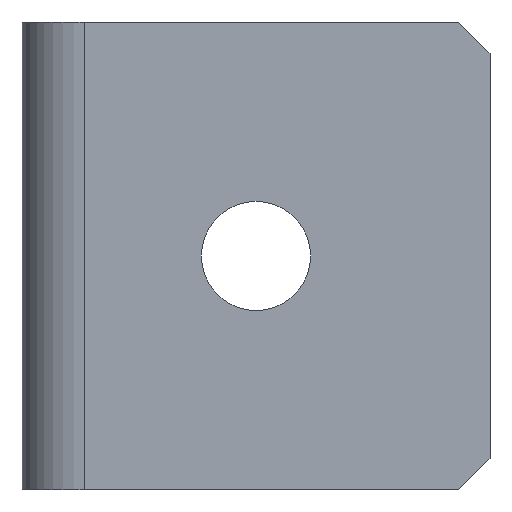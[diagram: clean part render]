
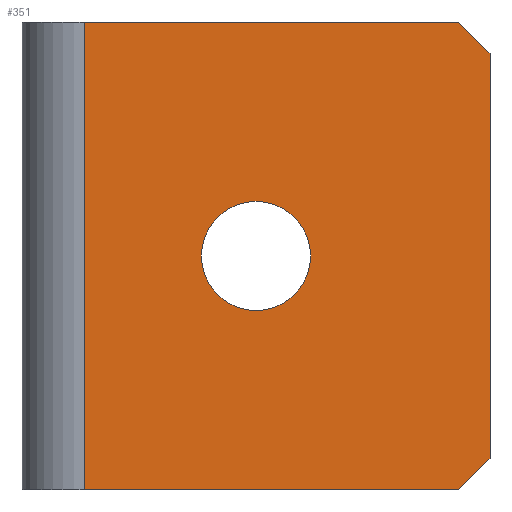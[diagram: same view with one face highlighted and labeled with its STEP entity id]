
A CAD part, front view. The second image highlights one B-rep face of the part: STEP entity #351.
In plain terms, the highlighted planar face has unit normal (0, -1, 0).
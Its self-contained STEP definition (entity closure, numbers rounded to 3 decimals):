
#24 = EDGE_CURVE ( 'NONE', #153, #34, #355, .T. ) ;
#34 = VERTEX_POINT ( 'NONE', #84 ) ;
#37 = DIRECTION ( 'NONE',  ( 0., 0., 1. ) ) ;
#40 = DIRECTION ( 'NONE',  ( 1., 0., 0. ) ) ;
#44 = CIRCLE ( 'NONE', #563, 3.5 ) ;
#81 = CARTESIAN_POINT ( 'NONE',  ( 28., 0., 0. ) ) ;
#84 = CARTESIAN_POINT ( 'NONE',  ( 4., 0., 0. ) ) ;
#89 = CARTESIAN_POINT ( 'NONE',  ( 4., 0., -30. ) ) ;
#91 = VECTOR ( 'NONE', #370, 1000. ) ;
#105 = LINE ( 'NONE', #550, #381 ) ;
#108 = EDGE_CURVE ( 'NONE', #34, #632, #286, .T. ) ;
#135 = EDGE_CURVE ( 'NONE', #467, #635, #610, .T. ) ;
#153 = VERTEX_POINT ( 'NONE', #356 ) ;
#159 = EDGE_CURVE ( 'NONE', #425, #327, #478, .T. ) ;
#170 = CARTESIAN_POINT ( 'NONE',  ( 18.5, 0., -15. ) ) ;
#180 = ORIENTED_EDGE ( 'NONE', *, *, #521, .T. ) ;
#182 = DIRECTION ( 'NONE',  ( 0., 0., -1. ) ) ;
#183 = EDGE_CURVE ( 'NONE', #384, #467, #277, .T. ) ;
#195 = CARTESIAN_POINT ( 'NONE',  ( 30., 0., -28. ) ) ;
#240 = PLANE ( 'NONE',  #534 ) ;
#247 = DIRECTION ( 'NONE',  ( 0., 0., -1. ) ) ;
#259 = LINE ( 'NONE', #318, #91 ) ;
#261 = CARTESIAN_POINT ( 'NONE',  ( 4., 0., 0. ) ) ;
#262 = DIRECTION ( 'NONE',  ( -0.707, 0., 0.707 ) ) ;
#267 = ORIENTED_EDGE ( 'NONE', *, *, #377, .F. ) ;
#277 = LINE ( 'NONE', #409, #548 ) ;
#283 = ORIENTED_EDGE ( 'NONE', *, *, #183, .T. ) ;
#286 = LINE ( 'NONE', #261, #371 ) ;
#305 = DIRECTION ( 'NONE',  ( 0., -1., 0. ) ) ;
#308 = CARTESIAN_POINT ( 'NONE',  ( 30., 0., -30. ) ) ;
#312 = EDGE_LOOP ( 'NONE', ( #441, #267 ) ) ;
#317 = DIRECTION ( 'NONE',  ( 0., 0., 1. ) ) ;
#318 = CARTESIAN_POINT ( 'NONE',  ( 4., 0., -30. ) ) ;
#327 = VERTEX_POINT ( 'NONE', #170 ) ;
#341 = FACE_OUTER_BOUND ( 'NONE', #379, .T. ) ;
#351 = ADVANCED_FACE ( 'NONE', ( #360, #341 ), #240, .T. ) ;
#353 = CARTESIAN_POINT ( 'NONE',  ( 4., 0., -30. ) ) ;
#355 = LINE ( 'NONE', #89, #464 ) ;
#356 = CARTESIAN_POINT ( 'NONE',  ( 4., 0., -30. ) ) ;
#360 = FACE_BOUND ( 'NONE', #312, .T. ) ;
#370 = DIRECTION ( 'NONE',  ( 1., 0., 0. ) ) ;
#371 = VECTOR ( 'NONE', #40, 1000. ) ;
#377 = EDGE_CURVE ( 'NONE', #327, #425, #44, .T. ) ;
#379 = EDGE_LOOP ( 'NONE', ( #180, #283, #421, #513, #437, #501 ) ) ;
#381 = VECTOR ( 'NONE', #262, 1000. ) ;
#384 = VERTEX_POINT ( 'NONE', #614 ) ;
#400 = CARTESIAN_POINT ( 'NONE',  ( 30., 0., -2. ) ) ;
#409 = CARTESIAN_POINT ( 'NONE',  ( 16., 0., -42. ) ) ;
#421 = ORIENTED_EDGE ( 'NONE', *, *, #135, .T. ) ;
#425 = VERTEX_POINT ( 'NONE', #544 ) ;
#437 = ORIENTED_EDGE ( 'NONE', *, *, #108, .F. ) ;
#441 = ORIENTED_EDGE ( 'NONE', *, *, #159, .F. ) ;
#464 = VECTOR ( 'NONE', #37, 1000. ) ;
#467 = VERTEX_POINT ( 'NONE', #195 ) ;
#478 = CIRCLE ( 'NONE', #634, 3.5 ) ;
#501 = ORIENTED_EDGE ( 'NONE', *, *, #24, .F. ) ;
#513 = ORIENTED_EDGE ( 'NONE', *, *, #518, .T. ) ;
#518 = EDGE_CURVE ( 'NONE', #635, #632, #105, .T. ) ;
#521 = EDGE_CURVE ( 'NONE', #153, #384, #259, .T. ) ;
#522 = DIRECTION ( 'NONE',  ( 0.707, 0., 0.707 ) ) ;
#525 = DIRECTION ( 'NONE',  ( 0., 0., -1. ) ) ;
#530 = DIRECTION ( 'NONE',  ( 0., -1., 0. ) ) ;
#534 = AXIS2_PLACEMENT_3D ( 'NONE', #353, #536, #182 ) ;
#535 = CARTESIAN_POINT ( 'NONE',  ( 15., 0., -15. ) ) ;
#536 = DIRECTION ( 'NONE',  ( 0., -1., 0. ) ) ;
#540 = CARTESIAN_POINT ( 'NONE',  ( 15., 0., -15. ) ) ;
#544 = CARTESIAN_POINT ( 'NONE',  ( 11.5, 0., -15. ) ) ;
#548 = VECTOR ( 'NONE', #522, 1000. ) ;
#550 = CARTESIAN_POINT ( 'NONE',  ( 31., 0., -3. ) ) ;
#559 = VECTOR ( 'NONE', #317, 1000. ) ;
#563 = AXIS2_PLACEMENT_3D ( 'NONE', #540, #305, #247 ) ;
#610 = LINE ( 'NONE', #308, #559 ) ;
#614 = CARTESIAN_POINT ( 'NONE',  ( 28., 0., -30. ) ) ;
#632 = VERTEX_POINT ( 'NONE', #81 ) ;
#634 = AXIS2_PLACEMENT_3D ( 'NONE', #535, #530, #525 ) ;
#635 = VERTEX_POINT ( 'NONE', #400 ) ;
